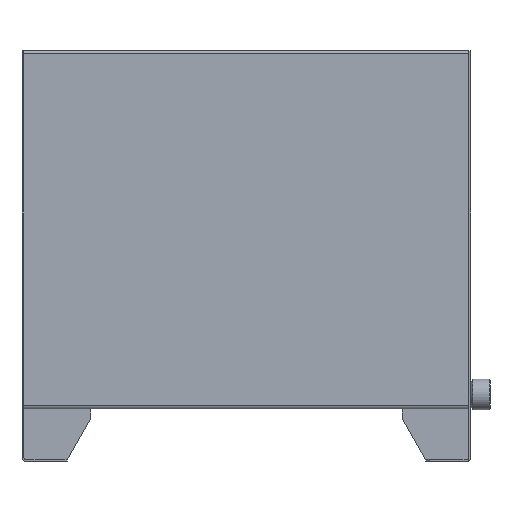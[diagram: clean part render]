
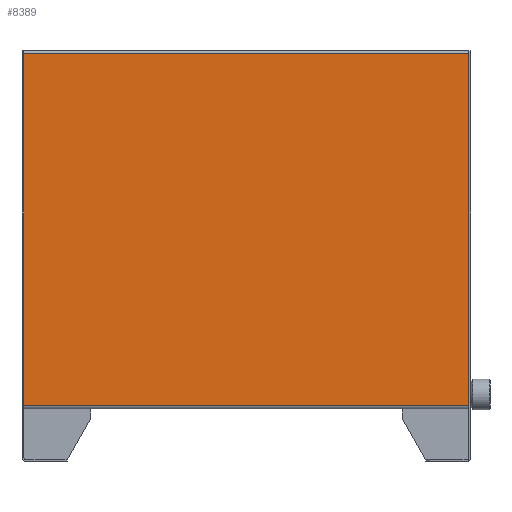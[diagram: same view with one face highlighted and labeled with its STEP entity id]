
A CAD part, front view. The second image highlights one B-rep face of the part: STEP entity #8389.
In plain terms, the highlighted planar face has unit normal (0, -1, 0).
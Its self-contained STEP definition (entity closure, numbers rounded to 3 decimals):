
#1298 = DIRECTION ( 'NONE',  ( -1., 0., 0. ) ) ;
#1940 = ORIENTED_EDGE ( 'NONE', *, *, #10467, .T. ) ;
#2006 = EDGE_CURVE ( 'NONE', #6141, #5158, #6712, .T. ) ;
#2251 = CARTESIAN_POINT ( 'NONE',  ( -233., -142.5, 372. ) ) ;
#2966 = ORIENTED_EDGE ( 'NONE', *, *, #5206, .T. ) ;
#3008 = ORIENTED_EDGE ( 'NONE', *, *, #5955, .F. ) ;
#3406 = LINE ( 'NONE', #8344, #10556 ) ;
#4409 = VECTOR ( 'NONE', #1298, 1000. ) ;
#4660 = DIRECTION ( 'NONE',  ( 0., 1., 0. ) ) ;
#5051 = FACE_OUTER_BOUND ( 'NONE', #7006, .T. ) ;
#5158 = VERTEX_POINT ( 'NONE', #2251 ) ;
#5159 = VECTOR ( 'NONE', #10585, 1000. ) ;
#5206 = EDGE_CURVE ( 'NONE', #5158, #5982, #3406, .T. ) ;
#5403 = CARTESIAN_POINT ( 'NONE',  ( 233., -142.5, 372. ) ) ;
#5955 = EDGE_CURVE ( 'NONE', #10362, #5982, #6629, .T. ) ;
#5982 = VERTEX_POINT ( 'NONE', #9379 ) ;
#6141 = VERTEX_POINT ( 'NONE', #6214 ) ;
#6214 = CARTESIAN_POINT ( 'NONE',  ( 233., -142.5, 372. ) ) ;
#6285 = CARTESIAN_POINT ( 'NONE',  ( 233., -142.5, 0. ) ) ;
#6629 = LINE ( 'NONE', #10214, #8657 ) ;
#6712 = LINE ( 'NONE', #5403, #4409 ) ;
#6984 = CARTESIAN_POINT ( 'NONE',  ( 233., -142.5, 3. ) ) ;
#7006 = EDGE_LOOP ( 'NONE', ( #9345, #2966, #3008, #1940 ) ) ;
#7453 = DIRECTION ( 'NONE',  ( 0., 0., -1. ) ) ;
#7716 = LINE ( 'NONE', #6285, #5159 ) ;
#8101 = PLANE ( 'NONE',  #9557 ) ;
#8344 = CARTESIAN_POINT ( 'NONE',  ( -233., -142.5, 0. ) ) ;
#8389 = ADVANCED_FACE ( 'NONE', ( #5051 ), #8101, .F. ) ;
#8657 = VECTOR ( 'NONE', #11058, 1000. ) ;
#9345 = ORIENTED_EDGE ( 'NONE', *, *, #2006, .T. ) ;
#9379 = CARTESIAN_POINT ( 'NONE',  ( -233., -142.5, 3. ) ) ;
#9557 = AXIS2_PLACEMENT_3D ( 'NONE', #9844, #4660, #10709 ) ;
#9844 = CARTESIAN_POINT ( 'NONE',  ( 0., -142.5, 0. ) ) ;
#10214 = CARTESIAN_POINT ( 'NONE',  ( -233., -142.5, 3. ) ) ;
#10362 = VERTEX_POINT ( 'NONE', #6984 ) ;
#10467 = EDGE_CURVE ( 'NONE', #10362, #6141, #7716, .T. ) ;
#10556 = VECTOR ( 'NONE', #7453, 1000. ) ;
#10585 = DIRECTION ( 'NONE',  ( 0., 0., 1. ) ) ;
#10709 = DIRECTION ( 'NONE',  ( 0., 0., 1. ) ) ;
#11058 = DIRECTION ( 'NONE',  ( -1., 0., 0. ) ) ;
